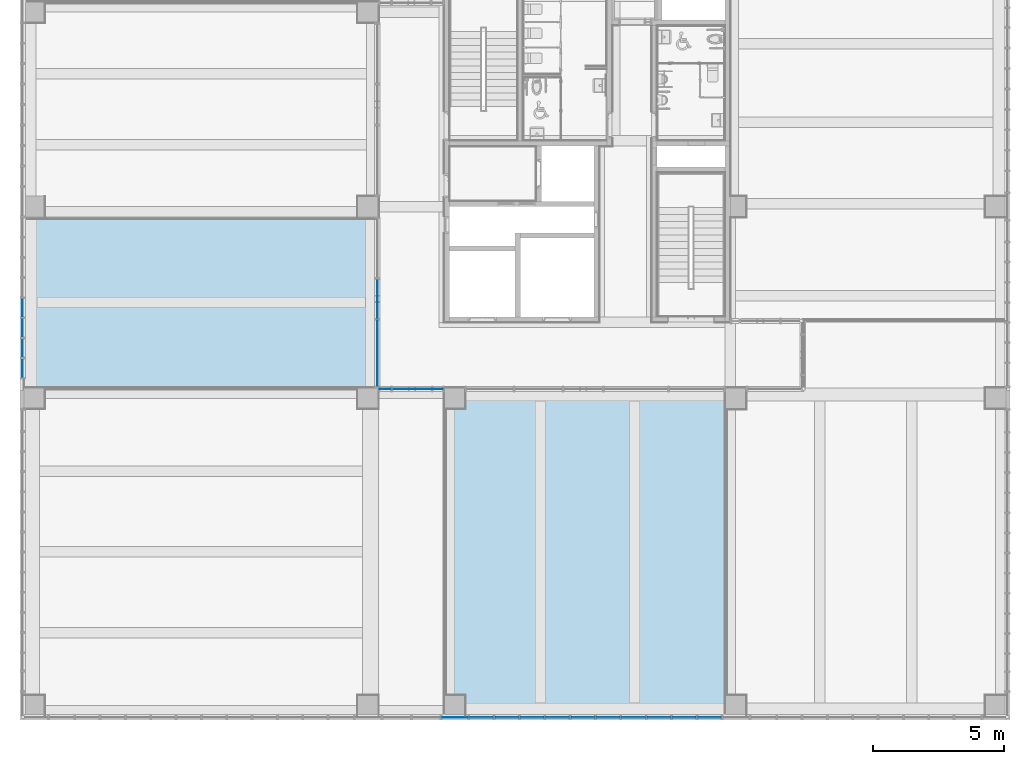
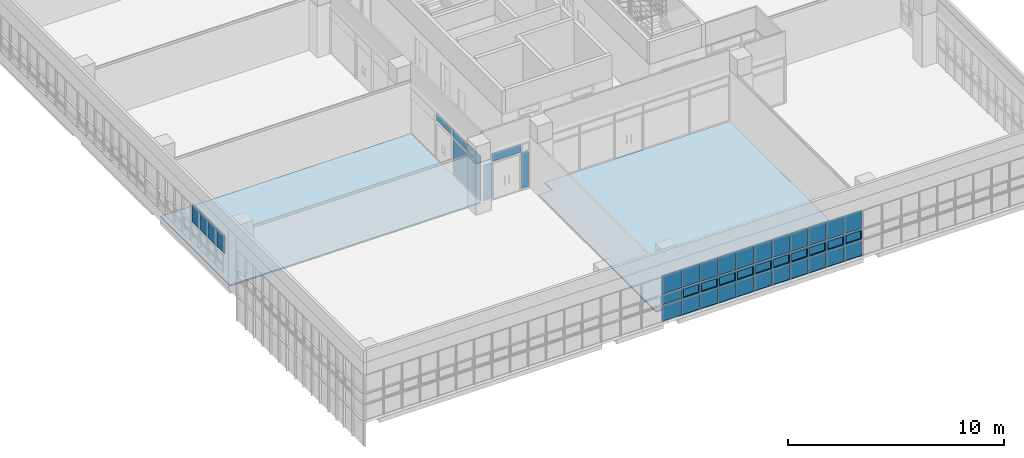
# One storey, part 26 of 81: 43 plates, 2 slabs, 4 elements without a shape of their own.
"""IFC2X3 building model written with IfcOpenShell, lengths in millimetres."""

from ifc_helpers import new_model, entity, si_unit, converted_unit, derived_unit, direction, frame, frame_2d, origin, origin_2d_with_axis, place, context, subcontext, project, spatial, polyline, rectangle, outline, extrude, source, transform, mapped, material, material_list, layer, layer_set, layer_usage, type_object, type_shapes, element, aggregate, save


model = new_model("IFC2X3")

# Units and contexts
model_context = context("Model", 3, precision=0.01, world=origin(), true_north=direction((6.123031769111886e-17, 1.0)))
body_context = subcontext(model_context, "Body", "Model", "MODEL_VIEW")
ifc_project = project(units=[si_unit("LENGTHUNIT", "METRE", prefix="MILLI"), si_unit("AREAUNIT", "SQUARE_METRE"), si_unit("VOLUMEUNIT", "CUBIC_METRE"), converted_unit("PLANEANGLEUNIT", "DEGREE", entity("IfcRatioMeasure", 0.017453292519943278), si_unit("PLANEANGLEUNIT", "RADIAN"), dimensions=[0, 0, 0, 0, 0, 0, 0]), si_unit("MASSUNIT", "GRAM", prefix="KILO"), derived_unit("MASSDENSITYUNIT", [(si_unit("MASSUNIT", "GRAM", prefix="KILO"), 1), (si_unit("LENGTHUNIT", "METRE"), -3)]), derived_unit("MOMENTOFINERTIAUNIT", [(si_unit("LENGTHUNIT", "METRE"), 4)]), si_unit("TIMEUNIT", "SECOND"), si_unit("FREQUENCYUNIT", "HERTZ"), si_unit("THERMODYNAMICTEMPERATUREUNIT", "DEGREE_CELSIUS"), derived_unit("THERMALTRANSMITTANCEUNIT", [(si_unit("MASSUNIT", "GRAM", prefix="KILO"), 1), (si_unit("THERMODYNAMICTEMPERATUREUNIT", "KELVIN"), -1), (si_unit("TIMEUNIT", "SECOND"), -3)]), derived_unit("VOLUMETRICFLOWRATEUNIT", [(si_unit("LENGTHUNIT", "METRE"), 3), (si_unit("TIMEUNIT", "SECOND"), -1)]), derived_unit("MASSFLOWRATEUNIT", [(si_unit("MASSUNIT", "GRAM", prefix="KILO"), 1), (si_unit("TIMEUNIT", "SECOND"), -1)]), derived_unit("ROTATIONALFREQUENCYUNIT", [(si_unit("TIMEUNIT", "SECOND"), -1)]), si_unit("ELECTRICCURRENTUNIT", "AMPERE"), si_unit("ELECTRICVOLTAGEUNIT", "VOLT"), si_unit("POWERUNIT", "WATT"), si_unit("FORCEUNIT", "NEWTON", prefix="KILO"), si_unit("ILLUMINANCEUNIT", "LUX"), si_unit("LUMINOUSFLUXUNIT", "LUMEN"), si_unit("LUMINOUSINTENSITYUNIT", "CANDELA"), derived_unit("USERDEFINED", [(si_unit("MASSUNIT", "GRAM", prefix="KILO"), -1), (si_unit("LENGTHUNIT", "METRE"), -2), (si_unit("TIMEUNIT", "SECOND"), 3), (si_unit("LUMINOUSFLUXUNIT", "LUMEN"), 1)]), derived_unit("SOUNDPOWERUNIT", [(si_unit("MASSUNIT", "GRAM", prefix="KILO"), 1), (si_unit("LENGTHUNIT", "METRE"), 2), (si_unit("TIMEUNIT", "SECOND"), -3)]), derived_unit("SOUNDPRESSUREUNIT", [(si_unit("MASSUNIT", "GRAM", prefix="KILO"), 1), (si_unit("LENGTHUNIT", "METRE"), -1), (si_unit("TIMEUNIT", "SECOND"), -2)]), derived_unit("LINEARVELOCITYUNIT", [(si_unit("LENGTHUNIT", "METRE"), 1), (si_unit("TIMEUNIT", "SECOND"), -1)]), si_unit("PRESSUREUNIT", "PASCAL"), derived_unit("USERDEFINED", [(si_unit("LENGTHUNIT", "METRE"), -2), (si_unit("MASSUNIT", "GRAM", prefix="KILO"), 1), (si_unit("TIMEUNIT", "SECOND"), -2)]), derived_unit("LINEARFORCEUNIT", [(si_unit("MASSUNIT", "GRAM", prefix="KILO"), 1), (si_unit("LENGTHUNIT", "METRE"), 1), (si_unit("TIMEUNIT", "SECOND"), -2), (si_unit("LENGTHUNIT", "METRE"), -1)]), derived_unit("PLANARFORCEUNIT", [(si_unit("MASSUNIT", "GRAM", prefix="KILO"), 1), (si_unit("LENGTHUNIT", "METRE"), 1), (si_unit("TIMEUNIT", "SECOND"), -2), (si_unit("LENGTHUNIT", "METRE"), -2)])], contexts=[model_context])

# Site, building, storey
site_placement = place(None, frame((-14167.972527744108, -657.2125860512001, 0.0)))
site = spatial("IfcSite", under=ifc_project, at=site_placement, Name="Default", CompositionType="ELEMENT")
building_placement = place(site_placement, origin())
building = spatial("IfcBuilding", under=site, at=building_placement, Name="Sample Building", CompositionType="ELEMENT")
storey_placement = place(building_placement, frame((0.0, 0.0, 13400.0)))
storey = spatial("IfcBuildingStorey", under=building, at=storey_placement, Name="지상 4층", CompositionType="ELEMENT", Elevation=13400.00000000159)

# Curtain wall, plates
curtain_wall_type = type_object("IfcCurtainWallType", Name="커튼월:CW112-스테인리스 스틸 커튼월", PredefinedType="NOTDEFINED")
curtain_wall_1_placement = place(storey_placement, frame((0.0, 0.0, -13400.0)))
curtain_wall_1 = element("IfcCurtainWall", 1, at=curtain_wall_1_placement, inside=storey, type_object=curtain_wall_type, Name="커튼월:CW112-스테인리스 스틸 커튼월", ObjectType="커튼월:CW112-스테인리스 스틸 커튼월")
ifc_material_1 = material(Name="KBIMS-로이유리(코팅)")
plate_type_1 = type_object("IfcPlateType", Name="CW300-THK24.Low-e coating glass:CW300-THK24.Low-e coating glass", PredefinedType="CURTAIN_PANEL", material=ifc_material_1)
shared_shape_1 = source(origin(), body_context, "Body", "SweptSolid", [
    extrude(rectangle(XDim=1500.0000000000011, YDim=24.000000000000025, at=origin_2d_with_axis()), frame((0.0, 0.0, 0.0), z_axis=(0.0, 0.0, 1.0), x_axis=(-1.0, 0.0, 0.0)), (0.0, 0.0, 1.0), 445.00000000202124),
])
type_shapes(plate_type_1, [shared_shape_1])
plate_1_placement = place(curtain_wall_1_placement, frame((27522.955105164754, 16442.177624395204, 15605.0), z_axis=(0.0, 0.0, 1.0), x_axis=(0.0, -1.0, 0.0)))
plate_1 = element("IfcPlate", 2, at=plate_1_placement, type_object=plate_type_1, material=ifc_material_1, Name="CW300-THK24.Low-e coating glass:CW300-THK24.Low-e coating glass", ObjectType="CW300-THK24.Low-e coating glass:CW300-THK24.Low-e coating glass", context=body_context, shape_type="MappedRepresentation", body=[
    mapped(shared_shape_1, transform((0.0, 0.0, 0.0), scale=1.0)),
])
plate_type_2 = type_object("IfcPlateType", Name="CW300-THK24.Low-e coating glass:CW300-THK24.Low-e coating glass", PredefinedType="CURTAIN_PANEL", material=ifc_material_1)
shared_shape_2 = source(origin(), body_context, "Body", "SweptSolid", [
    extrude(rectangle(XDim=2534.9650073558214, YDim=24.000000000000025, at=origin_2d_with_axis()), frame((0.0, 0.0, 0.0), z_axis=(0.0, 0.0, 1.0), x_axis=(-1.0, 0.0, 0.0)), (0.0, 0.0, 1.0), 2075.0000000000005),
])
type_shapes(plate_type_2, [shared_shape_2])
plate_2_placement = place(curtain_wall_1_placement, frame((27522.95510516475, 14374.69512071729, 13480.0), z_axis=(0.0, 0.0, 1.0), x_axis=(0.0, -1.0, 0.0)))
plate_2 = element("IfcPlate", 3, at=plate_2_placement, type_object=plate_type_2, material=ifc_material_1, Name="CW300-THK24.Low-e coating glass:CW300-THK24.Low-e coating glass", ObjectType="CW300-THK24.Low-e coating glass:CW300-THK24.Low-e coating glass", context=body_context, shape_type="MappedRepresentation", body=[
    mapped(shared_shape_2, transform((0.0, 0.0, 0.0), scale=1.0)),
])
plate_type_3 = type_object("IfcPlateType", Name="CW300-THK24.Low-e coating glass:CW300-THK24.Low-e coating glass", PredefinedType="CURTAIN_PANEL", material=ifc_material_1)
shared_shape_3 = source(origin(), body_context, "Body", "SweptSolid", [
    extrude(rectangle(XDim=2534.9650073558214, YDim=24.000000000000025, at=origin_2d_with_axis()), frame((0.0, 0.0, 0.0), z_axis=(0.0, 0.0, 1.0), x_axis=(-1.0, 0.0, 0.0)), (0.0, 0.0, 1.0), 445.00000000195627),
])
type_shapes(plate_type_3, [shared_shape_3])
plate_3_placement = place(curtain_wall_1_placement, frame((27522.95510516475, 14374.69512071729, 15605.0), z_axis=(0.0, 0.0, 1.0), x_axis=(0.0, -1.0, 0.0)))
plate_3 = element("IfcPlate", 4, at=plate_3_placement, type_object=plate_type_3, material=ifc_material_1, Name="CW300-THK24.Low-e coating glass:CW300-THK24.Low-e coating glass", ObjectType="CW300-THK24.Low-e coating glass:CW300-THK24.Low-e coating glass", context=body_context, shape_type="MappedRepresentation", body=[
    mapped(shared_shape_3, transform((0.0, 0.0, 0.0), scale=1.0)),
])
aggregate(curtain_wall_1, [plate_2, plate_1, plate_3])

# Curtain wall, plate
curtain_wall_2_placement = place(storey_placement, frame((0.0, 0.0, -13400.0)))
curtain_wall_2 = element("IfcCurtainWall", 5, at=curtain_wall_2_placement, inside=storey, type_object=curtain_wall_type, Name="커튼월:CW112-스테인리스 스틸 커튼월", ObjectType="커튼월:CW112-스테인리스 스틸 커튼월")
plate_type_4 = type_object("IfcPlateType", Name="CW300-THK24.Low-e coating glass:CW300-THK24.Low-e coating glass", PredefinedType="CURTAIN_PANEL", material=ifc_material_1)
shared_shape_4 = source(origin(), body_context, "Body", "SweptSolid", [
    extrude(rectangle(XDim=24.000000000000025, YDim=1500.0000000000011, at=origin_2d_with_axis()), frame((0.0, 0.0, 0.0), z_axis=(0.0, 0.0, 1.0), x_axis=(0.0, 1.0, 0.0)), (0.0, 0.0, 1.0), 444.9999999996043),
])
type_shapes(plate_type_4, [shared_shape_4])
plate_4_placement = place(curtain_wall_2_placement, frame((28841.091130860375, 13012.21230798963, 15605.0), z_axis=(0.0, 0.0, 1.0), x_axis=(-1.0, 0.0, 0.0)))
plate_4 = element("IfcPlate", 6, at=plate_4_placement, type_object=plate_type_4, material=ifc_material_1, Name="CW300-THK24.Low-e coating glass:CW300-THK24.Low-e coating glass", ObjectType="CW300-THK24.Low-e coating glass:CW300-THK24.Low-e coating glass", context=body_context, shape_type="MappedRepresentation", body=[
    mapped(shared_shape_4, transform((0.0, 0.0, 0.0), scale=1.0)),
])

# Curtain wall, plates
curtain_wall_3_placement = place(storey_placement, frame((0.0, 0.0, -13400.0)))
curtain_wall_3 = element("IfcCurtainWall", 7, at=curtain_wall_3_placement, inside=storey, type_object=curtain_wall_type, Name="커튼월:CW112-스테인리스 스틸 커튼월", ObjectType="커튼월:CW112-스테인리스 스틸 커튼월")
plate_type_5 = type_object("IfcPlateType", Name="CW300-THK24.Low-e coating glass:CW300-THK24.Low-e coating glass", PredefinedType="CURTAIN_PANEL", material=ifc_material_1)
shared_shape_5 = source(origin(), body_context, "Body", "SweptSolid", [
    extrude(rectangle(XDim=716.4999999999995, YDim=24.000000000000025, at=origin_2d_with_axis()), frame((0.0, 0.0, 0.0), z_axis=(0.0, 0.0, 1.0), x_axis=(-1.0, 0.0, 0.0)), (0.0, 0.0, 1.0), 1024.9999999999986),
])
type_shapes(plate_type_5, [shared_shape_5])
plate_5_placement = place(curtain_wall_3_placement, frame((14018.570555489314, 16104.56770709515, 15025.0), z_axis=(0.0, 0.0, 1.0), x_axis=(0.0, -1.0, 0.0)))
plate_5 = element("IfcPlate", 8, at=plate_5_placement, type_object=plate_type_5, material=ifc_material_1, Name="CW300-THK24.Low-e coating glass:CW300-THK24.Low-e coating glass", ObjectType="CW300-THK24.Low-e coating glass:CW300-THK24.Low-e coating glass", context=body_context, shape_type="MappedRepresentation", body=[
    mapped(shared_shape_5, transform((0.0, 0.0, 0.0), scale=1.0)),
])
plate_6_placement = place(curtain_wall_3_placement, frame((14018.570555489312, 15338.06770709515, 15025.0), z_axis=(0.0, 0.0, 1.0), x_axis=(0.0, -1.0, 0.0)))
plate_6 = element("IfcPlate", 9, at=plate_6_placement, type_object=plate_type_5, material=ifc_material_1, Name="CW300-THK24.Low-e coating glass:CW300-THK24.Low-e coating glass", ObjectType="CW300-THK24.Low-e coating glass:CW300-THK24.Low-e coating glass", context=body_context, shape_type="MappedRepresentation", body=[
    mapped(shared_shape_5, transform((0.0, 0.0, 0.0), scale=1.0)),
])
plate_7_placement = place(curtain_wall_3_placement, frame((14018.570555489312, 14571.56770709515, 15025.0), z_axis=(0.0, 0.0, 1.0), x_axis=(0.0, -1.0, 0.0)))
plate_7 = element("IfcPlate", 10, at=plate_7_placement, type_object=plate_type_5, material=ifc_material_1, Name="CW300-THK24.Low-e coating glass:CW300-THK24.Low-e coating glass", ObjectType="CW300-THK24.Low-e coating glass:CW300-THK24.Low-e coating glass", context=body_context, shape_type="MappedRepresentation", body=[
    mapped(shared_shape_5, transform((0.0, 0.0, 0.0), scale=1.0)),
])
plate_8_placement = place(curtain_wall_3_placement, frame((14018.57055548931, 13805.067707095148, 15025.0), z_axis=(0.0, 0.0, 1.0), x_axis=(0.0, -1.0, 0.0)))
plate_8 = element("IfcPlate", 11, at=plate_8_placement, type_object=plate_type_5, material=ifc_material_1, Name="CW300-THK24.Low-e coating glass:CW300-THK24.Low-e coating glass", ObjectType="CW300-THK24.Low-e coating glass:CW300-THK24.Low-e coating glass", context=body_context, shape_type="MappedRepresentation", body=[
    mapped(shared_shape_5, transform((0.0, 0.0, 0.0), scale=1.0)),
])
aggregate(curtain_wall_3, [plate_5, plate_6, plate_7, plate_8])

curtain_wall_4_placement = place(storey_placement, frame((0.0, 0.0, -13400.0)))
curtain_wall_4 = element("IfcCurtainWall", 12, at=curtain_wall_4_placement, inside=storey, type_object=curtain_wall_type, Name="커튼월:CW112-스테인리스 스틸 커튼월", ObjectType="커튼월:CW112-스테인리스 스틸 커튼월")
ifc_material_2 = material(Name="KBIMS-유리")
ifc_material_3 = material(Name="KBIMS-알루미늄")
ifc_material_list_1 = material_list([ifc_material_2, ifc_material_3])
ifc_material_list_2 = material_list([ifc_material_2, ifc_material_3])
plate_type_6 = type_object("IfcPlateType", Name="CW410-프로젝트 창:CW410-프로젝트 창 (하부개폐)", PredefinedType="CURTAIN_PANEL", material=ifc_material_list_2)
shared_shape_6 = source(origin(), body_context, "Body", "SweptSolid", [
    extrude(rectangle(XDim=815.0000000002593, YDim=23.999999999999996, at=origin_2d_with_axis()), frame((0.0, -0.04999999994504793, 50.0), z_axis=(0.0, 0.0, 1.0), x_axis=(-1.0, 0.0, 0.0)), (0.0, 0.0, 1.0), 450.0000000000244),
    extrude(outline(polyline([(-457.4999999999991, -275.0), (457.4999999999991, -275.0), (457.4999999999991, 275.0), (-457.4999999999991, 275.0), (-457.4999999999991, -275.0)]), holes=[polyline([(-407.50000000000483, -225.0), (-407.5000000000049, 225.0), (407.50000000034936, 225.0), (407.50000000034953, -225.0), (-407.50000000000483, -225.0)])]), frame((0.0, -50.04999999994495, 275.0), z_axis=(0.0, 1.0, 0.0), x_axis=(1.0, 0.0, 0.0)), (0.0, 0.0, 1.0), 99.99999999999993),
])
type_shapes(plate_type_6, [shared_shape_6])
plate_9_placement = place(curtain_wall_4_placement, frame((31487.656070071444, 507.21229514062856, 14425.0)))
plate_9 = element("IfcPlate", 13, at=plate_9_placement, type_object=plate_type_6, material=ifc_material_list_1, Name="CW410-프로젝트 창:CW410-프로젝트 창 (하부개폐)", ObjectType="CW410-프로젝트 창:CW410-프로젝트 창 (하부개폐)", context=body_context, shape_type="MappedRepresentation", body=[
    mapped(shared_shape_6, transform((0.0, 0.0, 0.0), scale=1.0)),
])
ifc_material_list_3 = material_list([ifc_material_2, ifc_material_3])
plate_10_placement = place(curtain_wall_4_placement, frame((32452.65607007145, 507.21229514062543, 14425.0)))
plate_10 = element("IfcPlate", 14, at=plate_10_placement, type_object=plate_type_6, material=ifc_material_list_3, Name="CW410-프로젝트 창:CW410-프로젝트 창 (하부개폐)", ObjectType="CW410-프로젝트 창:CW410-프로젝트 창 (하부개폐)", context=body_context, shape_type="MappedRepresentation", body=[
    mapped(shared_shape_6, transform((0.0, 0.0, 0.0), scale=1.0)),
])
ifc_material_list_4 = material_list([ifc_material_2, ifc_material_3])
plate_11_placement = place(curtain_wall_4_placement, frame((33417.656070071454, 507.21229514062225, 14425.0)))
plate_11 = element("IfcPlate", 15, at=plate_11_placement, type_object=plate_type_6, material=ifc_material_list_4, Name="CW410-프로젝트 창:CW410-프로젝트 창 (하부개폐)", ObjectType="CW410-프로젝트 창:CW410-프로젝트 창 (하부개폐)", context=body_context, shape_type="MappedRepresentation", body=[
    mapped(shared_shape_6, transform((0.0, 0.0, 0.0), scale=1.0)),
])
ifc_material_list_5 = material_list([ifc_material_2, ifc_material_3])
plate_12_placement = place(curtain_wall_4_placement, frame((34382.65607007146, 507.2122951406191, 14425.0)))
plate_12 = element("IfcPlate", 16, at=plate_12_placement, type_object=plate_type_6, material=ifc_material_list_5, Name="CW410-프로젝트 창:CW410-프로젝트 창 (하부개폐)", ObjectType="CW410-프로젝트 창:CW410-프로젝트 창 (하부개폐)", context=body_context, shape_type="MappedRepresentation", body=[
    mapped(shared_shape_6, transform((0.0, 0.0, 0.0), scale=1.0)),
])
ifc_material_list_6 = material_list([ifc_material_2, ifc_material_3])
plate_13_placement = place(curtain_wall_4_placement, frame((35347.656070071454, 507.21229514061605, 14425.0)))
plate_13 = element("IfcPlate", 17, at=plate_13_placement, type_object=plate_type_6, material=ifc_material_list_6, Name="CW410-프로젝트 창:CW410-프로젝트 창 (하부개폐)", ObjectType="CW410-프로젝트 창:CW410-프로젝트 창 (하부개폐)", context=body_context, shape_type="MappedRepresentation", body=[
    mapped(shared_shape_6, transform((0.0, 0.0, 0.0), scale=1.0)),
])
ifc_material_list_7 = material_list([ifc_material_2, ifc_material_3])
plate_14_placement = place(curtain_wall_4_placement, frame((36312.656070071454, 507.2122951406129, 14425.0)))
plate_14 = element("IfcPlate", 18, at=plate_14_placement, type_object=plate_type_6, material=ifc_material_list_7, Name="CW410-프로젝트 창:CW410-프로젝트 창 (하부개폐)", ObjectType="CW410-프로젝트 창:CW410-프로젝트 창 (하부개폐)", context=body_context, shape_type="MappedRepresentation", body=[
    mapped(shared_shape_6, transform((0.0, 0.0, 0.0), scale=1.0)),
])
ifc_material_list_8 = material_list([ifc_material_2, ifc_material_3])
plate_15_placement = place(curtain_wall_4_placement, frame((37277.65607007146, 507.2122951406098, 14425.0)))
plate_15 = element("IfcPlate", 19, at=plate_15_placement, type_object=plate_type_6, material=ifc_material_list_8, Name="CW410-프로젝트 창:CW410-프로젝트 창 (하부개폐)", ObjectType="CW410-프로젝트 창:CW410-프로젝트 창 (하부개폐)", context=body_context, shape_type="MappedRepresentation", body=[
    mapped(shared_shape_6, transform((0.0, 0.0, 0.0), scale=1.0)),
])
ifc_material_list_9 = material_list([ifc_material_2, ifc_material_3])
plate_16_placement = place(curtain_wall_4_placement, frame((38242.65607007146, 507.21229514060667, 14425.0)))
plate_16 = element("IfcPlate", 20, at=plate_16_placement, type_object=plate_type_6, material=ifc_material_list_9, Name="CW410-프로젝트 창:CW410-프로젝트 창 (하부개폐)", ObjectType="CW410-프로젝트 창:CW410-프로젝트 창 (하부개폐)", context=body_context, shape_type="MappedRepresentation", body=[
    mapped(shared_shape_6, transform((0.0, 0.0, 0.0), scale=1.0)),
])
ifc_material_list_10 = material_list([ifc_material_2, ifc_material_3])
plate_17_placement = place(curtain_wall_4_placement, frame((39207.65607007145, 507.21229514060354, 14425.0)))
plate_17 = element("IfcPlate", 21, at=plate_17_placement, type_object=plate_type_6, material=ifc_material_list_10, Name="CW410-프로젝트 창:CW410-프로젝트 창 (하부개폐)", ObjectType="CW410-프로젝트 창:CW410-프로젝트 창 (하부개폐)", context=body_context, shape_type="MappedRepresentation", body=[
    mapped(shared_shape_6, transform((0.0, 0.0, 0.0), scale=1.0)),
])
plate_type_7 = type_object("IfcPlateType", Name="CW300-THK24.Low-e coating glass:CW300-THK24.Low-e coating glass", PredefinedType="CURTAIN_PANEL", material=ifc_material_1)
shared_shape_7 = source(origin(), body_context, "Body", "SweptSolid", [
    extrude(rectangle(XDim=1010.0, YDim=24.000000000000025, at=origin_2d_with_axis()), frame((0.0, 0.0, 0.0), z_axis=(0.0, 0.0, 1.0), x_axis=(-1.0, 0.0, 0.0)), (0.0, 0.0, 1.0), 549.9999999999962),
])
type_shapes(plate_type_7, [shared_shape_7])
plate_18_placement = place(curtain_wall_4_placement, frame((30475.156070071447, 507.2122951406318, 14425.0)))
plate_18 = element("IfcPlate", 22, at=plate_18_placement, type_object=plate_type_7, material=ifc_material_1, Name="CW300-THK24.Low-e coating glass:CW300-THK24.Low-e coating glass", ObjectType="CW300-THK24.Low-e coating glass:CW300-THK24.Low-e coating glass", context=body_context, shape_type="MappedRepresentation", body=[
    mapped(shared_shape_7, transform((0.0, 0.0, 0.0), scale=1.0)),
])
ifc_material_list_11 = material_list([ifc_material_2, ifc_material_3])
ifc_material_list_12 = material_list([ifc_material_2, ifc_material_3])
plate_type_8 = type_object("IfcPlateType", Name="CW410-프로젝트 창:CW410-프로젝트 창 (하부개폐)", PredefinedType="CURTAIN_PANEL", material=ifc_material_list_12)
shared_shape_8 = source(origin(), body_context, "Body", "SweptSolid", [
    extrude(rectangle(XDim=810.000000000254, YDim=23.999999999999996, at=origin_2d_with_axis()), frame((0.0, -0.04999999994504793, 50.0), z_axis=(0.0, 0.0, 1.0), x_axis=(-1.0, 0.0, 0.0)), (0.0, 0.0, 1.0), 450.0000000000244),
    extrude(outline(polyline([(-455.0, -275.0), (455.0, -275.0), (455.0, 275.0), (-455.0, 275.0), (-455.0, -275.0)]), holes=[polyline([(-405.0, -225.0), (-405.0, 225.0), (405.0, 225.0), (405.0, -225.0), (-405.0, -225.0)])]), frame((0.0, -50.04999999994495, 275.0), z_axis=(0.0, 1.0, 0.0), x_axis=(1.0, 0.0, 0.0)), (0.0, 0.0, 1.0), 99.99999999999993),
])
type_shapes(plate_type_8, [shared_shape_8])
plate_19_placement = place(curtain_wall_4_placement, frame((40170.15607007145, 507.2122951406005, 14425.0)))
plate_19 = element("IfcPlate", 23, at=plate_19_placement, type_object=plate_type_8, material=ifc_material_list_11, Name="CW410-프로젝트 창:CW410-프로젝트 창 (하부개폐)", ObjectType="CW410-프로젝트 창:CW410-프로젝트 창 (하부개폐)", context=body_context, shape_type="MappedRepresentation", body=[
    mapped(shared_shape_8, transform((0.0, 0.0, 0.0), scale=1.0)),
])
plate_type_9 = type_object("IfcPlateType", Name="CW300-THK24.Low-e coating glass:CW300-THK24.Low-e coating glass", PredefinedType="CURTAIN_PANEL", material=ifc_material_1)
shared_shape_9 = source(origin(), body_context, "Body", "SweptSolid", [
    extrude(rectangle(XDim=914.9999999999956, YDim=24.000000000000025, at=origin_2d_with_axis()), frame((0.0, 0.0, 0.0), z_axis=(0.0, 0.0, 1.0), x_axis=(-1.0, 0.0, 0.0)), (0.0, 0.0, 1.0), 894.9999999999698),
])
type_shapes(plate_type_9, [shared_shape_9])
plate_20_placement = place(curtain_wall_4_placement, frame((31487.656070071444, 507.21229514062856, 13480.0)))
plate_20 = element("IfcPlate", 24, at=plate_20_placement, type_object=plate_type_9, material=ifc_material_1, Name="CW300-THK24.Low-e coating glass:CW300-THK24.Low-e coating glass", ObjectType="CW300-THK24.Low-e coating glass:CW300-THK24.Low-e coating glass", context=body_context, shape_type="MappedRepresentation", body=[
    mapped(shared_shape_9, transform((0.0, 0.0, 0.0), scale=1.0)),
])
plate_21_placement = place(curtain_wall_4_placement, frame((32452.65607007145, 507.21229514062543, 13480.0)))
plate_21 = element("IfcPlate", 25, at=plate_21_placement, type_object=plate_type_9, material=ifc_material_1, Name="CW300-THK24.Low-e coating glass:CW300-THK24.Low-e coating glass", ObjectType="CW300-THK24.Low-e coating glass:CW300-THK24.Low-e coating glass", context=body_context, shape_type="MappedRepresentation", body=[
    mapped(shared_shape_9, transform((0.0, 0.0, 0.0), scale=1.0)),
])
plate_22_placement = place(curtain_wall_4_placement, frame((33417.656070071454, 507.21229514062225, 13480.0)))
plate_22 = element("IfcPlate", 26, at=plate_22_placement, type_object=plate_type_9, material=ifc_material_1, Name="CW300-THK24.Low-e coating glass:CW300-THK24.Low-e coating glass", ObjectType="CW300-THK24.Low-e coating glass:CW300-THK24.Low-e coating glass", context=body_context, shape_type="MappedRepresentation", body=[
    mapped(shared_shape_9, transform((0.0, 0.0, 0.0), scale=1.0)),
])
plate_23_placement = place(curtain_wall_4_placement, frame((34382.656070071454, 507.2122951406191, 13480.0)))
plate_23 = element("IfcPlate", 27, at=plate_23_placement, type_object=plate_type_9, material=ifc_material_1, Name="CW300-THK24.Low-e coating glass:CW300-THK24.Low-e coating glass", ObjectType="CW300-THK24.Low-e coating glass:CW300-THK24.Low-e coating glass", context=body_context, shape_type="MappedRepresentation", body=[
    mapped(shared_shape_9, transform((0.0, 0.0, 0.0), scale=1.0)),
])
plate_24_placement = place(curtain_wall_4_placement, frame((35347.656070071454, 507.21229514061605, 13480.0)))
plate_24 = element("IfcPlate", 28, at=plate_24_placement, type_object=plate_type_9, material=ifc_material_1, Name="CW300-THK24.Low-e coating glass:CW300-THK24.Low-e coating glass", ObjectType="CW300-THK24.Low-e coating glass:CW300-THK24.Low-e coating glass", context=body_context, shape_type="MappedRepresentation", body=[
    mapped(shared_shape_9, transform((0.0, 0.0, 0.0), scale=1.0)),
])
plate_25_placement = place(curtain_wall_4_placement, frame((36312.656070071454, 507.2122951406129, 13480.0)))
plate_25 = element("IfcPlate", 29, at=plate_25_placement, type_object=plate_type_9, material=ifc_material_1, Name="CW300-THK24.Low-e coating glass:CW300-THK24.Low-e coating glass", ObjectType="CW300-THK24.Low-e coating glass:CW300-THK24.Low-e coating glass", context=body_context, shape_type="MappedRepresentation", body=[
    mapped(shared_shape_9, transform((0.0, 0.0, 0.0), scale=1.0)),
])
plate_26_placement = place(curtain_wall_4_placement, frame((37277.65607007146, 507.2122951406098, 13480.0)))
plate_26 = element("IfcPlate", 30, at=plate_26_placement, type_object=plate_type_9, material=ifc_material_1, Name="CW300-THK24.Low-e coating glass:CW300-THK24.Low-e coating glass", ObjectType="CW300-THK24.Low-e coating glass:CW300-THK24.Low-e coating glass", context=body_context, shape_type="MappedRepresentation", body=[
    mapped(shared_shape_9, transform((0.0, 0.0, 0.0), scale=1.0)),
])
plate_27_placement = place(curtain_wall_4_placement, frame((38242.65607007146, 507.21229514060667, 13480.0)))
plate_27 = element("IfcPlate", 31, at=plate_27_placement, type_object=plate_type_9, material=ifc_material_1, Name="CW300-THK24.Low-e coating glass:CW300-THK24.Low-e coating glass", ObjectType="CW300-THK24.Low-e coating glass:CW300-THK24.Low-e coating glass", context=body_context, shape_type="MappedRepresentation", body=[
    mapped(shared_shape_9, transform((0.0, 0.0, 0.0), scale=1.0)),
])
plate_28_placement = place(curtain_wall_4_placement, frame((39207.656070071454, 507.21229514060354, 13480.0)))
plate_28 = element("IfcPlate", 32, at=plate_28_placement, type_object=plate_type_9, material=ifc_material_1, Name="CW300-THK24.Low-e coating glass:CW300-THK24.Low-e coating glass", ObjectType="CW300-THK24.Low-e coating glass:CW300-THK24.Low-e coating glass", context=body_context, shape_type="MappedRepresentation", body=[
    mapped(shared_shape_9, transform((0.0, 0.0, 0.0), scale=1.0)),
])
plate_type_10 = type_object("IfcPlateType", Name="CW300-THK24.Low-e coating glass:CW300-THK24.Low-e coating glass", PredefinedType="CURTAIN_PANEL", material=ifc_material_1)
shared_shape_10 = source(origin(), body_context, "Body", "SweptSolid", [
    extrude(rectangle(XDim=1009.9999999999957, YDim=24.000000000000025, at=origin_2d_with_axis()), frame((0.0, 0.0, 0.0), z_axis=(0.0, 0.0, 1.0), x_axis=(-1.0, 0.0, 0.0)), (0.0, 0.0, 1.0), 894.9999999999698),
])
type_shapes(plate_type_10, [shared_shape_10])
plate_29_placement = place(curtain_wall_4_placement, frame((30475.156070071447, 507.2122951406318, 13480.0)))
plate_29 = element("IfcPlate", 33, at=plate_29_placement, type_object=plate_type_10, material=ifc_material_1, Name="CW300-THK24.Low-e coating glass:CW300-THK24.Low-e coating glass", ObjectType="CW300-THK24.Low-e coating glass:CW300-THK24.Low-e coating glass", context=body_context, shape_type="MappedRepresentation", body=[
    mapped(shared_shape_10, transform((0.0, 0.0, 0.0), scale=1.0)),
])
plate_type_11 = type_object("IfcPlateType", Name="CW300-THK24.Low-e coating glass:CW300-THK24.Low-e coating glass", PredefinedType="CURTAIN_PANEL", material=ifc_material_1)
shared_shape_11 = source(origin(), body_context, "Body", "SweptSolid", [
    extrude(rectangle(XDim=909.9999999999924, YDim=24.000000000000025, at=origin_2d_with_axis()), frame((0.0, 0.0, 0.0), z_axis=(0.0, 0.0, 1.0), x_axis=(-1.0, 0.0, 0.0)), (0.0, 0.0, 1.0), 894.9999999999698),
])
type_shapes(plate_type_11, [shared_shape_11])
plate_30_placement = place(curtain_wall_4_placement, frame((40170.15607007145, 507.2122951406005, 13480.0)))
plate_30 = element("IfcPlate", 34, at=plate_30_placement, type_object=plate_type_11, material=ifc_material_1, Name="CW300-THK24.Low-e coating glass:CW300-THK24.Low-e coating glass", ObjectType="CW300-THK24.Low-e coating glass:CW300-THK24.Low-e coating glass", context=body_context, shape_type="MappedRepresentation", body=[
    mapped(shared_shape_11, transform((0.0, 0.0, 0.0), scale=1.0)),
])
plate_type_12 = type_object("IfcPlateType", Name="CW300-THK24.Low-e coating glass:CW300-THK24.Low-e coating glass", PredefinedType="CURTAIN_PANEL", material=ifc_material_1)
shared_shape_12 = source(origin(), body_context, "Body", "SweptSolid", [
    extrude(rectangle(XDim=914.9999999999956, YDim=24.000000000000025, at=origin_2d_with_axis()), frame((0.0, 0.0, 0.0), z_axis=(0.0, 0.0, 1.0), x_axis=(-1.0, 0.0, 0.0)), (0.0, 0.0, 1.0), 1025.0000000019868),
])
type_shapes(plate_type_12, [shared_shape_12])
plate_31_placement = place(curtain_wall_4_placement, frame((31487.656070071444, 507.21229514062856, 15025.0)))
plate_31 = element("IfcPlate", 35, at=plate_31_placement, type_object=plate_type_12, material=ifc_material_1, Name="CW300-THK24.Low-e coating glass:CW300-THK24.Low-e coating glass", ObjectType="CW300-THK24.Low-e coating glass:CW300-THK24.Low-e coating glass", context=body_context, shape_type="MappedRepresentation", body=[
    mapped(shared_shape_12, transform((0.0, 0.0, 0.0), scale=1.0)),
])
plate_32_placement = place(curtain_wall_4_placement, frame((32452.65607007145, 507.21229514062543, 15025.0)))
plate_32 = element("IfcPlate", 36, at=plate_32_placement, type_object=plate_type_12, material=ifc_material_1, Name="CW300-THK24.Low-e coating glass:CW300-THK24.Low-e coating glass", ObjectType="CW300-THK24.Low-e coating glass:CW300-THK24.Low-e coating glass", context=body_context, shape_type="MappedRepresentation", body=[
    mapped(shared_shape_12, transform((0.0, 0.0, 0.0), scale=1.0)),
])
plate_33_placement = place(curtain_wall_4_placement, frame((33417.656070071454, 507.21229514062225, 15025.0)))
plate_33 = element("IfcPlate", 37, at=plate_33_placement, type_object=plate_type_12, material=ifc_material_1, Name="CW300-THK24.Low-e coating glass:CW300-THK24.Low-e coating glass", ObjectType="CW300-THK24.Low-e coating glass:CW300-THK24.Low-e coating glass", context=body_context, shape_type="MappedRepresentation", body=[
    mapped(shared_shape_12, transform((0.0, 0.0, 0.0), scale=1.0)),
])
plate_34_placement = place(curtain_wall_4_placement, frame((34382.656070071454, 507.2122951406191, 15025.0)))
plate_34 = element("IfcPlate", 38, at=plate_34_placement, type_object=plate_type_12, material=ifc_material_1, Name="CW300-THK24.Low-e coating glass:CW300-THK24.Low-e coating glass", ObjectType="CW300-THK24.Low-e coating glass:CW300-THK24.Low-e coating glass", context=body_context, shape_type="MappedRepresentation", body=[
    mapped(shared_shape_12, transform((0.0, 0.0, 0.0), scale=1.0)),
])
plate_35_placement = place(curtain_wall_4_placement, frame((35347.656070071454, 507.21229514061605, 15025.0)))
plate_35 = element("IfcPlate", 39, at=plate_35_placement, type_object=plate_type_12, material=ifc_material_1, Name="CW300-THK24.Low-e coating glass:CW300-THK24.Low-e coating glass", ObjectType="CW300-THK24.Low-e coating glass:CW300-THK24.Low-e coating glass", context=body_context, shape_type="MappedRepresentation", body=[
    mapped(shared_shape_12, transform((0.0, 0.0, 0.0), scale=1.0)),
])
plate_36_placement = place(curtain_wall_4_placement, frame((36312.656070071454, 507.2122951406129, 15025.0)))
plate_36 = element("IfcPlate", 40, at=plate_36_placement, type_object=plate_type_12, material=ifc_material_1, Name="CW300-THK24.Low-e coating glass:CW300-THK24.Low-e coating glass", ObjectType="CW300-THK24.Low-e coating glass:CW300-THK24.Low-e coating glass", context=body_context, shape_type="MappedRepresentation", body=[
    mapped(shared_shape_12, transform((0.0, 0.0, 0.0), scale=1.0)),
])
plate_37_placement = place(curtain_wall_4_placement, frame((37277.65607007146, 507.2122951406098, 15025.0)))
plate_37 = element("IfcPlate", 41, at=plate_37_placement, type_object=plate_type_12, material=ifc_material_1, Name="CW300-THK24.Low-e coating glass:CW300-THK24.Low-e coating glass", ObjectType="CW300-THK24.Low-e coating glass:CW300-THK24.Low-e coating glass", context=body_context, shape_type="MappedRepresentation", body=[
    mapped(shared_shape_12, transform((0.0, 0.0, 0.0), scale=1.0)),
])
plate_38_placement = place(curtain_wall_4_placement, frame((38242.656070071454, 507.21229514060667, 15025.0)))
plate_38 = element("IfcPlate", 42, at=plate_38_placement, type_object=plate_type_12, material=ifc_material_1, Name="CW300-THK24.Low-e coating glass:CW300-THK24.Low-e coating glass", ObjectType="CW300-THK24.Low-e coating glass:CW300-THK24.Low-e coating glass", context=body_context, shape_type="MappedRepresentation", body=[
    mapped(shared_shape_12, transform((0.0, 0.0, 0.0), scale=1.0)),
])
plate_39_placement = place(curtain_wall_4_placement, frame((39207.65607007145, 507.21229514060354, 15025.0)))
plate_39 = element("IfcPlate", 43, at=plate_39_placement, type_object=plate_type_12, material=ifc_material_1, Name="CW300-THK24.Low-e coating glass:CW300-THK24.Low-e coating glass", ObjectType="CW300-THK24.Low-e coating glass:CW300-THK24.Low-e coating glass", context=body_context, shape_type="MappedRepresentation", body=[
    mapped(shared_shape_12, transform((0.0, 0.0, 0.0), scale=1.0)),
])
plate_type_13 = type_object("IfcPlateType", Name="CW300-THK24.Low-e coating glass:CW300-THK24.Low-e coating glass", PredefinedType="CURTAIN_PANEL", material=ifc_material_1)
shared_shape_13 = source(origin(), body_context, "Body", "SweptSolid", [
    extrude(rectangle(XDim=1010.0000000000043, YDim=24.000000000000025, at=origin_2d_with_axis()), frame((0.0, 0.0, 0.0), z_axis=(0.0, 0.0, 1.0), x_axis=(-1.0, 0.0, 0.0)), (0.0, 0.0, 1.0), 1025.0000000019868),
])
type_shapes(plate_type_13, [shared_shape_13])
plate_40_placement = place(curtain_wall_4_placement, frame((30475.156070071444, 507.2122951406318, 15025.0)))
plate_40 = element("IfcPlate", 44, at=plate_40_placement, type_object=plate_type_13, material=ifc_material_1, Name="CW300-THK24.Low-e coating glass:CW300-THK24.Low-e coating glass", ObjectType="CW300-THK24.Low-e coating glass:CW300-THK24.Low-e coating glass", context=body_context, shape_type="MappedRepresentation", body=[
    mapped(shared_shape_13, transform((0.0, 0.0, 0.0), scale=1.0)),
])
plate_type_14 = type_object("IfcPlateType", Name="CW300-THK24.Low-e coating glass:CW300-THK24.Low-e coating glass", PredefinedType="CURTAIN_PANEL", material=ifc_material_1)
shared_shape_14 = source(origin(), body_context, "Body", "SweptSolid", [
    extrude(rectangle(XDim=909.9999999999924, YDim=24.000000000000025, at=origin_2d_with_axis()), frame((0.0, 0.0, 0.0), z_axis=(0.0, 0.0, 1.0), x_axis=(-1.0, 0.0, 0.0)), (0.0, 0.0, 1.0), 1025.0000000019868),
])
type_shapes(plate_type_14, [shared_shape_14])
plate_41_placement = place(curtain_wall_4_placement, frame((40170.15607007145, 507.2122951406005, 15025.0)))
plate_41 = element("IfcPlate", 45, at=plate_41_placement, type_object=plate_type_14, material=ifc_material_1, Name="CW300-THK24.Low-e coating glass:CW300-THK24.Low-e coating glass", ObjectType="CW300-THK24.Low-e coating glass:CW300-THK24.Low-e coating glass", context=body_context, shape_type="MappedRepresentation", body=[
    mapped(shared_shape_14, transform((0.0, 0.0, 0.0), scale=1.0)),
])
aggregate(curtain_wall_4, [plate_29, plate_20, plate_21, plate_22, plate_23, plate_24, plate_25, plate_26, plate_27, plate_28, plate_30, plate_18, plate_9, plate_10, plate_11, plate_12, plate_13, plate_14, plate_15, plate_16, plate_17, plate_19, plate_40, plate_31, plate_32, plate_33, plate_34, plate_35, plate_36, plate_37, plate_38, plate_39, plate_41])

# Plate
plate_type_15 = type_object("IfcPlateType", Name="CW300-THK24.Low-e coating glass:CW300-THK24.Low-e coating glass", PredefinedType="CURTAIN_PANEL", material=ifc_material_1)
shared_shape_15 = source(origin(), body_context, "Body", "SweptSolid", [
    extrude(rectangle(XDim=24.000000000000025, YDim=376.8639834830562, at=origin_2d_with_axis()), frame((0.0, 0.0, 0.0), z_axis=(0.0, 0.0, 1.0), x_axis=(0.0, 1.0, 0.0)), (0.0, 0.0, 1.0), 2025.000000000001),
])
type_shapes(plate_type_15, [shared_shape_15])
plate_42_placement = place(curtain_wall_2_placement, frame((29829.523122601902, 13012.212307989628, 13530.0), z_axis=(0.0, 0.0, 1.0), x_axis=(-1.0, 0.0, 0.0)))
plate_42 = element("IfcPlate", 46, at=plate_42_placement, type_object=plate_type_15, material=ifc_material_1, Name="CW300-THK24.Low-e coating glass:CW300-THK24.Low-e coating glass", ObjectType="CW300-THK24.Low-e coating glass:CW300-THK24.Low-e coating glass", context=body_context, shape_type="MappedRepresentation", body=[
    mapped(shared_shape_15, transform((0.0, 0.0, 0.0), scale=1.0)),
])

plate_type_16 = type_object("IfcPlateType", Name="CW300-THK24.Low-e coating glass:CW300-THK24.Low-e coating glass", PredefinedType="CURTAIN_PANEL", material=ifc_material_1)
shared_shape_16 = source(origin(), body_context, "Body", "SweptSolid", [
    extrude(rectangle(XDim=24.000000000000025, YDim=423.1707092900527, at=origin_2d_with_axis()), frame((0.0, 0.0, 0.0), z_axis=(0.0, 0.0, 1.0), x_axis=(0.0, 1.0, 0.0)), (0.0, 0.0, 1.0), 2025.000000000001),
])
type_shapes(plate_type_16, [shared_shape_16])
plate_43_placement = place(curtain_wall_2_placement, frame((27829.50577621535, 13012.212307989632, 13530.0), z_axis=(0.0, 0.0, 1.0), x_axis=(-1.0, 0.0, 0.0)))
plate_43 = element("IfcPlate", 47, at=plate_43_placement, type_object=plate_type_16, material=ifc_material_1, Name="CW300-THK24.Low-e coating glass:CW300-THK24.Low-e coating glass", ObjectType="CW300-THK24.Low-e coating glass:CW300-THK24.Low-e coating glass", context=body_context, shape_type="MappedRepresentation", body=[
    mapped(shared_shape_16, transform((0.0, 0.0, 0.0), scale=1.0)),
])

aggregate(curtain_wall_2, [plate_42, plate_43, plate_4])

# Slabs
ifc_material_4 = material(Name="SL341-테라조 바닥 (바탕48mm, 마감32mm)")
ifc_layer = layer(ifc_material_4, 80.0)
ifc_layer_set = layer_set([ifc_layer], Name="바닥:A1-14-06B-테라조타일 (80mm)")
ifc_layer_usage_1 = layer_usage(ifc_layer_set, "AXIS3", "POSITIVE", 0.0)
slab_type_1 = type_object("IfcSlabType", Name="바닥:A1-14-06B-테라조타일 (80mm)", PredefinedType="FLOOR", material=ifc_layer_set)
slab_1_placement = place(storey_placement, origin())
element("IfcSlab", 48, at=slab_1_placement, inside=storey, type_object=slab_type_1, material=ifc_layer_usage_1, Name="바닥:A1-14-06B-테라조타일 (80mm)", ObjectType="바닥:A1-14-06B-테라조타일 (80mm)", PredefinedType="FLOOR", context=body_context, shape_type="SweptSolid", body=[
    extrude(rectangle(XDim=6437.500309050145, YDim=13409.982650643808, at=frame_2d((-4.320099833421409e-12, 2.2737367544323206e-12), x_axis=(1.0, 0.0))), frame((20772.96377984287, 16275.962462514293, 80.0), z_axis=(0.0, 0.0, -1.0), x_axis=(0.0, 1.0, 0.0)), (0.0, 0.0, 1.0), 79.99999999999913),
])
ifc_layer_usage_2 = layer_usage(ifc_layer_set, "AXIS3", "POSITIVE", 0.0)
slab_type_2 = type_object("IfcSlabType", Name="바닥:A1-14-06B-테라조타일 (80mm)", PredefinedType="FLOOR", material=ifc_layer_set)
slab_2_placement = place(storey_placement, origin())
element("IfcSlab", 49, at=slab_2_placement, inside=storey, type_object=slab_type_2, material=ifc_layer_usage_2, Name="바닥:A1-14-06B-테라조타일 (80mm)", ObjectType="바닥:A1-14-06B-테라조타일 (80mm)", PredefinedType="FLOOR", context=body_context, shape_type="SweptSolid", body=[
    extrude(outline(polyline([(-5425.250365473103, -3028.1380188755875), (5465.7500564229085, -3028.1380188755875), (5465.7500564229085, -2290.620669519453), (6184.7503654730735, -2290.620669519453), (6184.750365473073, 7609.379357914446), (-6225.250056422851, 7609.3793579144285), (-6225.250056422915, -2290.6206695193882), (-5425.250365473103, -2290.6206695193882), (-5425.250365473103, -3028.1380188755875)])), frame((33158.593133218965, 6782.462251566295, 80.0), z_axis=(0.0, 0.0, -1.0), x_axis=(0.0, 1.0, 0.0)), (0.0, 0.0, 1.0), 79.99999999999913),
])

save(model, "model.ifc")
